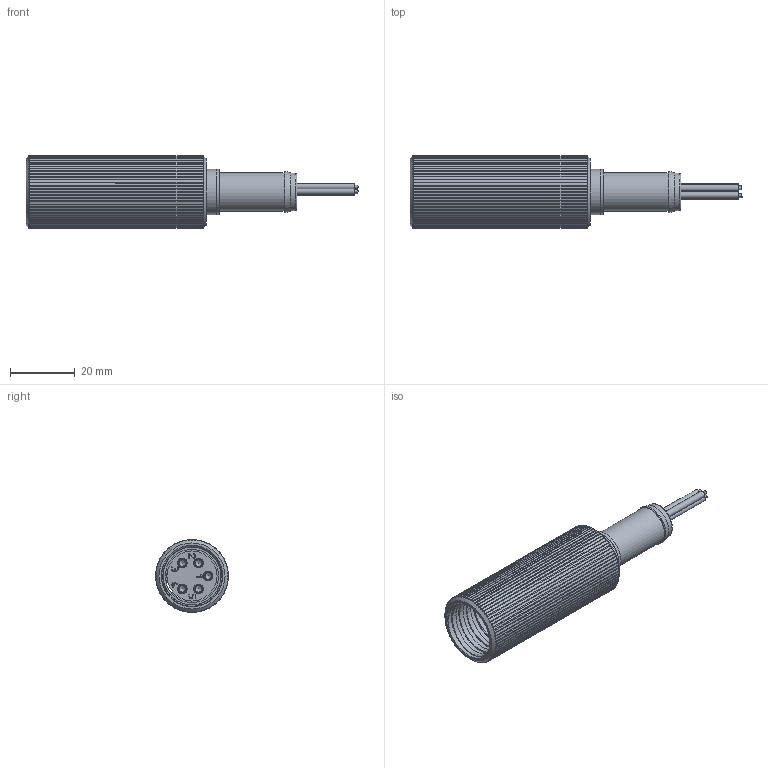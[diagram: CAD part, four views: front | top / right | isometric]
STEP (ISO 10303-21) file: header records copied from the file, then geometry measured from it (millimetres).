
FILE_DESCRIPTION(('STEP AP214'), '1');
FILE_NAME('Ðîçåòêà êàáåëüíàÿ ñ òðóáêîé ìåä 5 ïèí 2 ìì', '', ('UNSPECIFIED'), ('UNSPECIFIED'), 'C3D Converter', 'C3D Toolkit', '');
FILE_SCHEMA(('AUTOMOTIVE_DESIGN { 1 0 10303 214 3 1 1}'));
Length unit declared in the file: millimetre
Bounding box: 102.9 x 22.5 x 22.5 mm (x, y, z)
Volume: 19221.6 mm3; surface area: 18803.4 mm2
Topology: 19 solids, 19 shells, 616 faces, 1506 edges, 973 vertices
Faces by surface type: cylinder 272, plane 172, extrusion 97, cone 35, torus 27, revolution 11, bspline 2
Full cylindrical faces by diameter (mm): 1 x15, 2 x35, 2.6 x5, 2.8 x10, 3 x20, 3.3 x15, 8 x2, 10 x2, 12 x1, 14 x2, 15.5 x1, 16.5 x2, 18 x1, 19.4 x1
Entity records: 27613 total; most frequent: CARTESIAN_POINT 9105, ORIENTED_EDGE 2644, DIRECTION 2523, EDGE_CURVE 1322, AXIS2_PLACEMENT_3D 964, VERTEX_POINT 963, EDGE_LOOP 849, COLOUR_RGB 635
